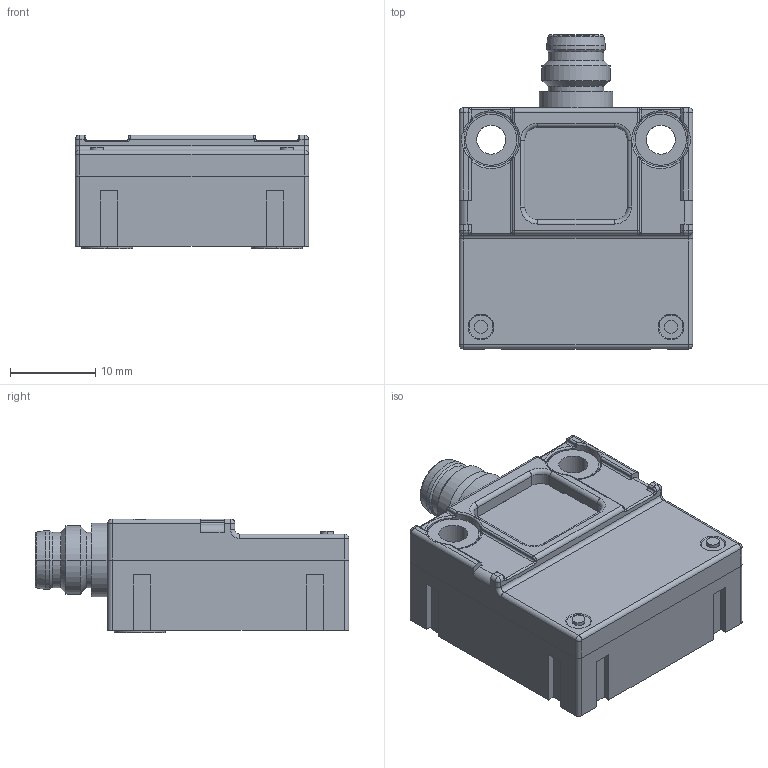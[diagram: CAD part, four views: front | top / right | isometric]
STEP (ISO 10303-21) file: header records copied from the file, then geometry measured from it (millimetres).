
FILE_DESCRIPTION((''),'2;1');
FILE_NAME('0000070567_SW0001','2015-02-05T',('11000535'),(''),'PRO/ENGINEER BY PARAMETRIC TECHNOLOGY CORPORATION, 2014090','PRO/ENGINEER BY PARAMETRIC TECHNOLOGY CORPORATION, 2014090','');
FILE_SCHEMA(('AUTOMOTIVE_DESIGN { 1 0 10303 214 1 1 1 1 }'));
Length unit declared in the file: millimetre
Products named in the file (1): 0000070567_SW0001
Bounding box: 27.4 x 36.85 x 13.35 mm (x, y, z)
Surface area: 4137.7 mm2 (no closed solid volume)
Topology: 0 solids, 19 shells, 319 faces, 845 edges, 542 vertices
Faces by surface type: cylinder 114, plane 101, torus 34, bspline 26, cone 22, sphere 22
Entity records: 14397 total; most frequent: CARTESIAN_POINT 3688, DIRECTION 1752, ORIENTED_EDGE 1532, EDGE_CURVE 837, AXIS2_PLACEMENT_3D 681, VERTEX_POINT 542, VECTOR 390, LINE 390
